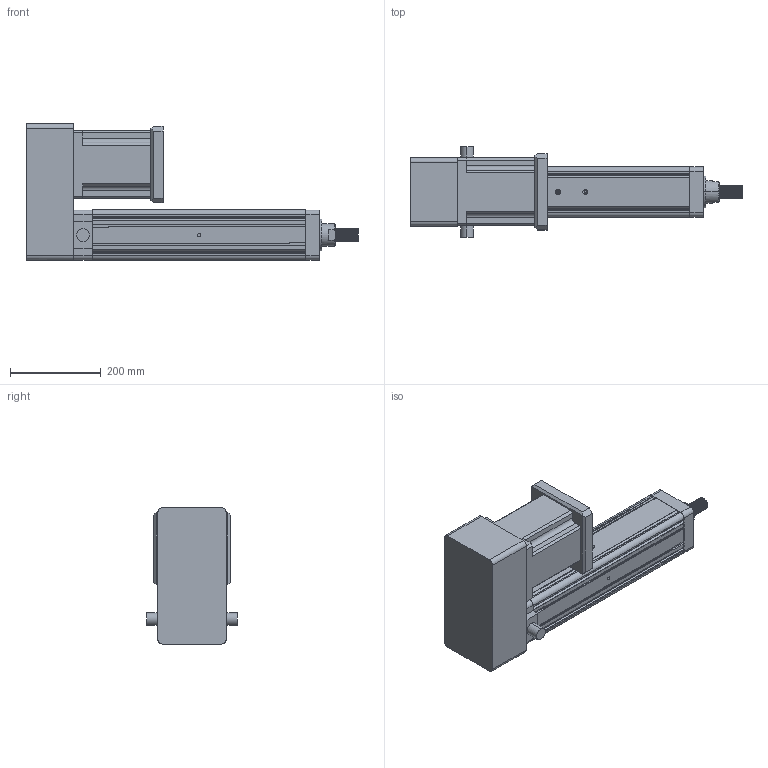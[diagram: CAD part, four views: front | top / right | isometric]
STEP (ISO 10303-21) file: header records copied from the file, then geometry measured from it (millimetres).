
FILE_DESCRIPTION (( 'STEP AP203' ), '1' );
FILE_NAME ('YRJ110-L300-H4K1.STEP', '2020-01-06T01:14:42', ( 'User' ), ( 'China' ), 'SwSTEP 2.0', 'SolidWorks 2016', '' );
FILE_SCHEMA (( 'CONFIG_CONTROL_DESIGN' ));
Length unit declared in the file: millimetre
Products named in the file (7): H5-110-2; 萇儂碟-110; 095-100俴最倰第; 142熬厒儂; YRJ110-L300-H4K1; H5-110-1; K1-110
Assembly tree (6 placements, depth 2):
  YRJ110-L300-H4K1
    095-100俴最倰第
    142熬厒儂
    H5-110-1
    H5-110-2
    K1-110
    萇儂碟-110
Bounding box: 731 x 200 x 300.5 mm (x, y, z)
Volume: 11787337.4 mm3; surface area: 904988 mm2
Topology: 6 solids, 6 shells, 364 faces, 1001 edges, 648 vertices
Faces by surface type: plane 177, cylinder 156, cone 27, bspline 4
Entity records: 20204 total; most frequent: CARTESIAN_POINT 10355, ORIENTED_EDGE 1970, DIRECTION 1829, EDGE_CURVE 985, VERTEX_POINT 648, VECTOR 625, LINE 625, AXIS2_PLACEMENT_3D 602
